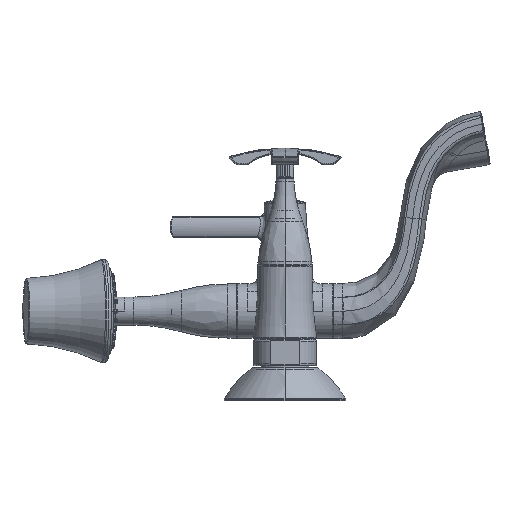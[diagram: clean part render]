
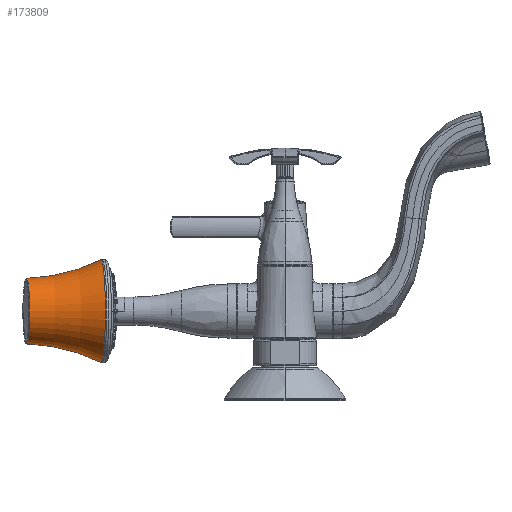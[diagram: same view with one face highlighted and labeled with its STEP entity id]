
A CAD part, left-side view. The second image highlights one B-rep face of the part: STEP entity #173809.
In plain terms, the highlighted toroidal (fillet/blend) face has major radius 117.448 mm and minor radius 100 mm.
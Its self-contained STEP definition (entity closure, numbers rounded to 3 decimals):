
#136075=CARTESIAN_POINT('',(-78.587,98.325,14.5));
#136076=DIRECTION('',(0.087,-0.996,0.));
#136077=DIRECTION('',(0.,0.,1.));
#136078=AXIS2_PLACEMENT_3D('',#136075,#136076,#136077);
#136080=CARTESIAN_POINT('',(-82.051,137.919,14.5));
#136081=DIRECTION('',(0.087,-0.996,0.));
#136082=DIRECTION('',(0.,0.,1.));
#136083=AXIS2_PLACEMENT_3D('',#136080,#136081,#136082);
#136090=CARTESIAN_POINT('',(-82.369,141.55,
131.947));
#136091=DIRECTION('',(-0.996,-0.087,0.));
#136092=DIRECTION('',(0.003,-0.036,-0.999));
#136093=AXIS2_PLACEMENT_3D('',#136090,#136091,#136092);
#136100=CARTESIAN_POINT('',(-82.369,141.55,
-102.947));
#136101=DIRECTION('',(0.996,0.087,0.));
#136102=DIRECTION('',(0.003,-0.036,0.999));
#136103=AXIS2_PLACEMENT_3D('',#136100,#136101,#136102);
#171658=CARTESIAN_POINT('',(-82.051,137.919,
32.014));
#171659=CARTESIAN_POINT('',(-82.051,137.919,
-3.014));
#171660=VERTEX_POINT('',#171658);
#171661=VERTEX_POINT('',#171659);
#171672=CARTESIAN_POINT('',(-78.587,98.325,
41.851));
#171673=CARTESIAN_POINT('',(-78.587,98.325,
-12.851));
#171674=VERTEX_POINT('',#171672);
#171675=VERTEX_POINT('',#171673);
#173795=CARTESIAN_POINT('',(-82.369,141.55,14.5));
#173796=DIRECTION('',(-0.087,0.996,0.));
#173797=DIRECTION('',(0.,0.,1.));
#173798=AXIS2_PLACEMENT_3D('',#173795,#173796,#173797);
#173799=TOROIDAL_SURFACE('',#173798,117.447,100.);
#173800=ORIENTED_EDGE('',*,*,#173789,.T.);
#173802=ORIENTED_EDGE('',*,*,#173801,.F.);
#173804=ORIENTED_EDGE('',*,*,#173803,.F.);
#173806=ORIENTED_EDGE('',*,*,#173805,.T.);
#173807=EDGE_LOOP('',(#173800,#173802,#173804,#173806));
#173808=FACE_OUTER_BOUND('',#173807,.F.);
#173809=ADVANCED_FACE('',(#173808),#173799,.F.);
#136079=CIRCLE('',#136078,27.351);
#136084=CIRCLE('',#136083,17.514);
#136094=CIRCLE('',#136093,100.);
#136104=CIRCLE('',#136103,100.);
#173789=EDGE_CURVE('',#171674,#171675,#136079,.T.);
#173801=EDGE_CURVE('',#171661,#171675,#136104,.T.);
#173803=EDGE_CURVE('',#171660,#171661,#136084,.T.);
#173805=EDGE_CURVE('',#171660,#171674,#136094,.T.);
